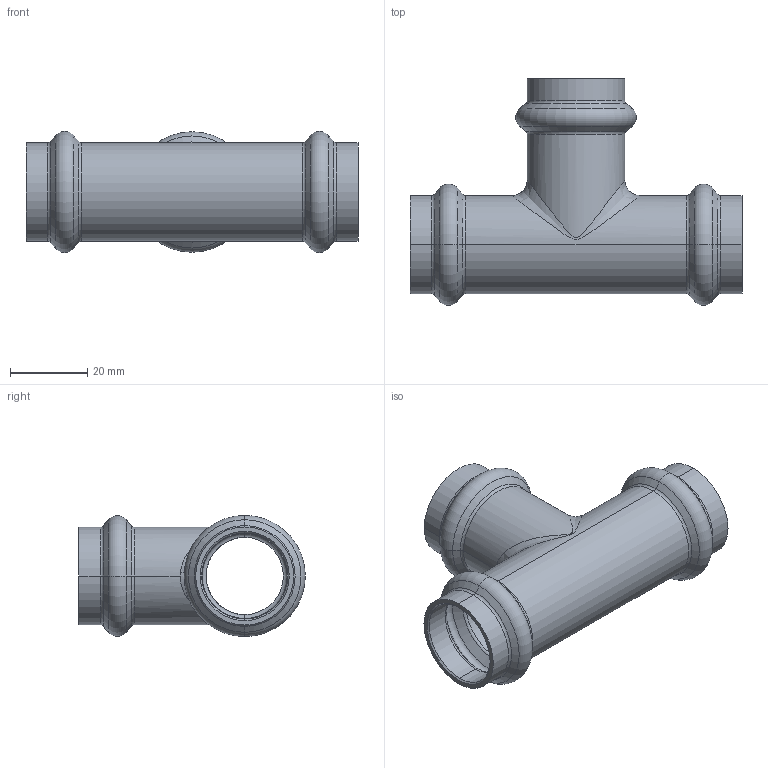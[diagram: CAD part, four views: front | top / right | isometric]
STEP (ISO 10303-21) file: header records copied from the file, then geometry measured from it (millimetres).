
FILE_DESCRIPTION (( 'STEP AP203' ), '1' );
FILE_NAME ('SP5130 Ø22.STEP', '2017-04-24T12:16:10', ( '' ), ( '' ), 'SwSTEP 2.0', 'SolidWorks 2016', '' );
FILE_SCHEMA (( 'CONFIG_CONTROL_DESIGN' ));
Length unit declared in the file: millimetre
Products named in the file (1): SP5130 ﾘ22
Bounding box: 86 x 58.7 x 31.4 mm (x, y, z)
Volume: 17551.3 mm3; surface area: 18919.5 mm2
Topology: 1 solids, 1 shells, 110 faces, 226 edges, 122 vertices
Faces by surface type: torus 40, cone 30, cylinder 30, plane 6, bspline 4
Entity records: 4311 total; most frequent: CARTESIAN_POINT 1849, DIRECTION 582, ORIENTED_EDGE 452, AXIS2_PLACEMENT_3D 261, EDGE_CURVE 226, CIRCLE 154, VERTEX_POINT 122, EDGE_LOOP 118
